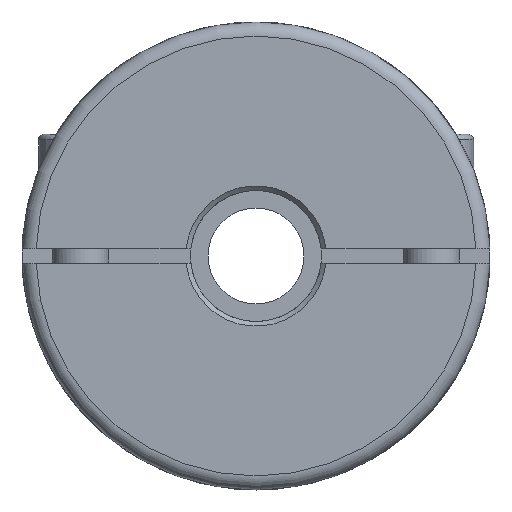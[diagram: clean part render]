
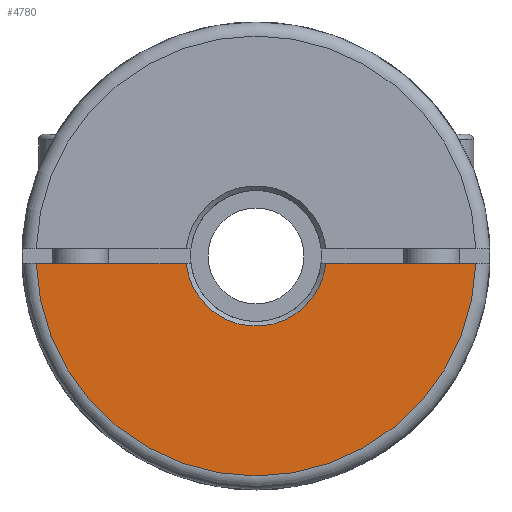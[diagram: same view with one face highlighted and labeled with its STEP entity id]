
A CAD part, left-side view. The second image highlights one B-rep face of the part: STEP entity #4780.
In plain terms, the highlighted planar face has unit normal (-1, 0, 0).
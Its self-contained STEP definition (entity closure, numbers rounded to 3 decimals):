
#60=LINE('',#7333,#268);
#64=LINE('',#7347,#272);
#268=VECTOR('',#5775,1000.);
#272=VECTOR('',#5783,1000.);
#477=PLANE('',#5110);
#882=ORIENTED_EDGE('',*,*,#2325,.F.);
#883=ORIENTED_EDGE('',*,*,#2307,.F.);
#884=ORIENTED_EDGE('',*,*,#2319,.F.);
#885=ORIENTED_EDGE('',*,*,#2329,.T.);
#2307=EDGE_CURVE('',#3036,#3038,#3531,.T.);
#2319=EDGE_CURVE('',#3049,#3036,#60,.T.);
#2325=EDGE_CURVE('',#3038,#3052,#64,.T.);
#2329=EDGE_CURVE('',#3049,#3052,#3541,.T.);
#3036=VERTEX_POINT('',#7260);
#3038=VERTEX_POINT('',#7263);
#3049=VERTEX_POINT('',#7334);
#3052=VERTEX_POINT('',#7348);
#3531=CIRCLE('',#5093,15.);
#3541=CIRCLE('',#5111,47.);
#3890=EDGE_LOOP('',(#882,#883,#884,#885));
#4298=FACE_BOUND('',#3890,.T.);
#4780=ADVANCED_FACE('',(#4298),#477,.T.);
#5093=AXIS2_PLACEMENT_3D('',#7262,#5749,#5750);
#5110=AXIS2_PLACEMENT_3D('',#7359,#5791,#5792);
#5111=AXIS2_PLACEMENT_3D('',#7360,#5793,#5794);
#5749=DIRECTION('',(-1.,0.,0.));
#5750=DIRECTION('',(0.,0.,1.));
#5775=DIRECTION('',(0.,-1.,0.));
#5783=DIRECTION('',(0.,-1.,0.));
#5791=DIRECTION('',(-1.,0.,0.));
#5792=DIRECTION('',(0.,0.,1.));
#5793=DIRECTION('',(-1.,0.,0.));
#5794=DIRECTION('',(0.,0.,1.));
#7260=CARTESIAN_POINT('',(-9.,14.925,-1.5));
#7262=CARTESIAN_POINT('',(-9.,0.,0.));
#7263=CARTESIAN_POINT('',(-9.,-14.925,-1.5));
#7333=CARTESIAN_POINT('',(-9.,0.,-1.5));
#7334=CARTESIAN_POINT('',(-9.,46.976,-1.5));
#7347=CARTESIAN_POINT('',(-9.,0.,-1.5));
#7348=CARTESIAN_POINT('',(-9.,-46.976,-1.5));
#7359=CARTESIAN_POINT('',(-9.,0.,14.));
#7360=CARTESIAN_POINT('',(-9.,0.,0.));
